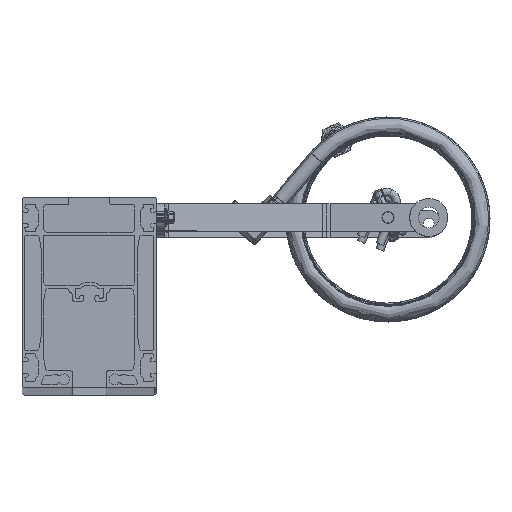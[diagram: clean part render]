
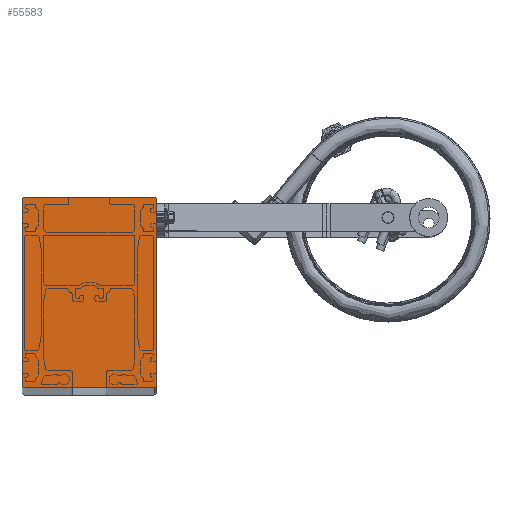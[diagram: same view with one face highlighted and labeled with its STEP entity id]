
A CAD part, top view. The second image highlights one B-rep face of the part: STEP entity #55583.
In plain terms, the highlighted planar face has unit normal (0, 0, 1).
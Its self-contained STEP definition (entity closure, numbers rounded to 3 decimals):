
#1027 = CARTESIAN_POINT ( 'NONE',  ( -5925.513, 16477.397, 1502. ) ) ;
#1975 = CARTESIAN_POINT ( 'NONE',  ( -5925.513, 16337.397, 1502. ) ) ;
#2015 = CARTESIAN_POINT ( 'NONE',  ( -5927.513, 16475.397, 1502. ) ) ;
#6051 = DIRECTION ( 'NONE',  ( 0., 0., 1. ) ) ;
#7446 = CIRCLE ( 'NONE', #13447, 2. ) ;
#10035 = AXIS2_PLACEMENT_3D ( 'NONE', #38751, #6051, #11337 ) ;
#11337 = DIRECTION ( 'NONE',  ( 1., 0., 0. ) ) ;
#11568 = ORIENTED_EDGE ( 'NONE', *, *, #64149, .T. ) ;
#12324 = CARTESIAN_POINT ( 'NONE',  ( -5927.513, 16339.397, 1502. ) ) ;
#12639 = CARTESIAN_POINT ( 'NONE',  ( -5828.513, 16339.397, 1502. ) ) ;
#13288 = EDGE_CURVE ( 'NONE', #26148, #62362, #35338, .T. ) ;
#13447 = AXIS2_PLACEMENT_3D ( 'NONE', #43954, #28256, #33708 ) ;
#14595 = DIRECTION ( 'NONE',  ( -1., 0., 0. ) ) ;
#14614 = CARTESIAN_POINT ( 'NONE',  ( -5830.513, 16337.397, 1502. ) ) ;
#14835 = ORIENTED_EDGE ( 'NONE', *, *, #16633, .T. ) ;
#15275 = PLANE ( 'NONE',  #58535 ) ;
#16199 = DIRECTION ( 'NONE',  ( 1., 0., 0. ) ) ;
#16221 = EDGE_CURVE ( 'NONE', #57881, #63825, #54809, .T. ) ;
#16633 = EDGE_CURVE ( 'NONE', #63825, #38817, #58279, .T. ) ;
#17628 = DIRECTION ( 'NONE',  ( 0., 0., 1. ) ) ;
#17648 = LINE ( 'NONE', #1027, #50859 ) ;
#18051 = DIRECTION ( 'NONE',  ( -1., 0., 0. ) ) ;
#19101 = FACE_OUTER_BOUND ( 'NONE', #57517, .T. ) ;
#22649 = CARTESIAN_POINT ( 'NONE',  ( -5830.513, 16477.397, 1502. ) ) ;
#23347 = CARTESIAN_POINT ( 'NONE',  ( -5925.513, 16339.397, 1502. ) ) ;
#24312 = ORIENTED_EDGE ( 'NONE', *, *, #65912, .T. ) ;
#26047 = DIRECTION ( 'NONE',  ( 0., 0., 1. ) ) ;
#26148 = VERTEX_POINT ( 'NONE', #47738 ) ;
#26912 = DIRECTION ( 'NONE',  ( 0., 0., 1. ) ) ;
#28256 = DIRECTION ( 'NONE',  ( 0., 0., 1. ) ) ;
#28562 = DIRECTION ( 'NONE',  ( 1., 0., 0. ) ) ;
#28582 = CARTESIAN_POINT ( 'NONE',  ( -5828.513, 16475.397, 1502. ) ) ;
#31707 = CARTESIAN_POINT ( 'NONE',  ( -5830.513, 16475.397, 1502. ) ) ;
#32776 = LINE ( 'NONE', #28582, #57606 ) ;
#32892 = CARTESIAN_POINT ( 'NONE',  ( -5925.513, 16477.397, 1502. ) ) ;
#33708 = DIRECTION ( 'NONE',  ( 1., 0., 0. ) ) ;
#35338 = LINE ( 'NONE', #1975, #61898 ) ;
#36434 = AXIS2_PLACEMENT_3D ( 'NONE', #23347, #17628, #28562 ) ;
#36509 = EDGE_CURVE ( 'NONE', #62362, #70322, #7446, .T. ) ;
#38751 = CARTESIAN_POINT ( 'NONE',  ( -5925.513, 16475.397, 1502. ) ) ;
#38817 = VERTEX_POINT ( 'NONE', #12324 ) ;
#40851 = DIRECTION ( 'NONE',  ( 1., 0., 0. ) ) ;
#41060 = ORIENTED_EDGE ( 'NONE', *, *, #36509, .T. ) ;
#43954 = CARTESIAN_POINT ( 'NONE',  ( -5830.513, 16339.397, 1502. ) ) ;
#47685 = VERTEX_POINT ( 'NONE', #22649 ) ;
#47738 = CARTESIAN_POINT ( 'NONE',  ( -5925.513, 16337.397, 1502. ) ) ;
#48214 = ORIENTED_EDGE ( 'NONE', *, *, #67952, .T. ) ;
#48242 = AXIS2_PLACEMENT_3D ( 'NONE', #31707, #26047, #14595 ) ;
#49713 = CARTESIAN_POINT ( 'NONE',  ( -5927.513, 16475.397, 1502. ) ) ;
#49889 = CIRCLE ( 'NONE', #48242, 2. ) ;
#50859 = VECTOR ( 'NONE', #18051, 1000. ) ;
#51172 = DIRECTION ( 'NONE',  ( 0., -1., 0. ) ) ;
#51491 = CIRCLE ( 'NONE', #36434, 2. ) ;
#52490 = ORIENTED_EDGE ( 'NONE', *, *, #13288, .T. ) ;
#53713 = ORIENTED_EDGE ( 'NONE', *, *, #66437, .T. ) ;
#54809 = CIRCLE ( 'NONE', #10035, 2. ) ;
#55491 = VERTEX_POINT ( 'NONE', #59602 ) ;
#55583 = ADVANCED_FACE ( 'NONE', ( #19101 ), #15275, .T. ) ;
#57376 = VECTOR ( 'NONE', #51172, 1000. ) ;
#57517 = EDGE_LOOP ( 'NONE', ( #48214, #52490, #41060, #53713, #24312, #11568, #61275, #14835 ) ) ;
#57606 = VECTOR ( 'NONE', #60806, 1000. ) ;
#57881 = VERTEX_POINT ( 'NONE', #32892 ) ;
#58279 = LINE ( 'NONE', #2015, #57376 ) ;
#58535 = AXIS2_PLACEMENT_3D ( 'NONE', #59132, #26912, #16199 ) ;
#59132 = CARTESIAN_POINT ( 'NONE',  ( -5925.513, 16339.397, 1502. ) ) ;
#59602 = CARTESIAN_POINT ( 'NONE',  ( -5828.513, 16475.397, 1502. ) ) ;
#60806 = DIRECTION ( 'NONE',  ( 0., 1., 0. ) ) ;
#61275 = ORIENTED_EDGE ( 'NONE', *, *, #16221, .T. ) ;
#61898 = VECTOR ( 'NONE', #40851, 1000. ) ;
#62362 = VERTEX_POINT ( 'NONE', #14614 ) ;
#63825 = VERTEX_POINT ( 'NONE', #49713 ) ;
#64149 = EDGE_CURVE ( 'NONE', #47685, #57881, #17648, .T. ) ;
#65912 = EDGE_CURVE ( 'NONE', #55491, #47685, #49889, .T. ) ;
#66437 = EDGE_CURVE ( 'NONE', #70322, #55491, #32776, .T. ) ;
#67952 = EDGE_CURVE ( 'NONE', #38817, #26148, #51491, .T. ) ;
#70322 = VERTEX_POINT ( 'NONE', #12639 ) ;
